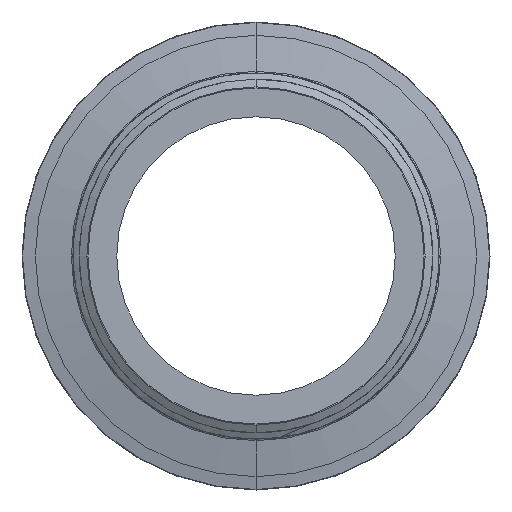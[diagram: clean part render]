
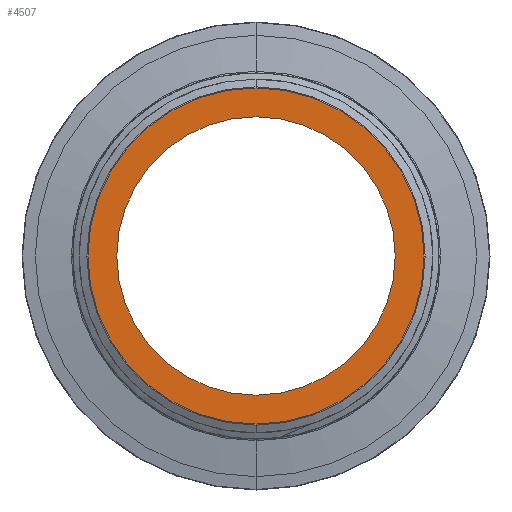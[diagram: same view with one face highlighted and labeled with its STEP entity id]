
A CAD part, front view. The second image highlights one B-rep face of the part: STEP entity #4507.
In plain terms, the highlighted planar face has unit normal (0, -1, 0).
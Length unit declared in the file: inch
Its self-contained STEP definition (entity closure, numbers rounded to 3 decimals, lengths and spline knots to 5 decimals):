
#8 = EDGE_LOOP ( 'NONE', ( #11391, #3389 ) ) ;
#678 = CIRCLE ( 'NONE', #14869, 1.33268 ) ;
#1167 = CARTESIAN_POINT ( 'NONE',  ( 0., 0., 0. ) ) ;
#1326 = DIRECTION ( 'NONE',  ( 1., 0., 0. ) ) ;
#1955 = DIRECTION ( 'NONE',  ( 0., 0., 1. ) ) ;
#2383 = EDGE_CURVE ( 'NONE', #9157, #8151, #678, .T. ) ;
#2394 = AXIS2_PLACEMENT_3D ( 'NONE', #10441, #11557, #1955 ) ;
#3039 = DIRECTION ( 'NONE',  ( 0., 0., 1. ) ) ;
#3112 = CARTESIAN_POINT ( 'NONE',  ( 0., 0., 0. ) ) ;
#3389 = ORIENTED_EDGE ( 'NONE', *, *, #6134, .F. ) ;
#3602 = CIRCLE ( 'NONE', #3840, 1.6089 ) ;
#3833 = CARTESIAN_POINT ( 'NONE',  ( 0., 0., 0. ) ) ;
#3840 = AXIS2_PLACEMENT_3D ( 'NONE', #11377, #9066, #3039 ) ;
#4401 = EDGE_LOOP ( 'NONE', ( #12978, #12003 ) ) ;
#4507 = ADVANCED_FACE ( 'NONE', ( #8822, #5166 ), #14576, .F. ) ;
#4788 = DIRECTION ( 'NONE',  ( 0., 0., 1. ) ) ;
#5166 = FACE_OUTER_BOUND ( 'NONE', #4401, .T. ) ;
#5248 = DIRECTION ( 'NONE',  ( 0., 0., 1. ) ) ;
#6134 = EDGE_CURVE ( 'NONE', #8151, #9157, #9218, .T. ) ;
#6446 = DIRECTION ( 'NONE',  ( 0., -1., 0. ) ) ;
#6935 = DIRECTION ( 'NONE',  ( 0., -1., 0. ) ) ;
#7288 = CARTESIAN_POINT ( 'NONE',  ( 0., 0., 1.33268 ) ) ;
#8151 = VERTEX_POINT ( 'NONE', #13499 ) ;
#8822 = FACE_BOUND ( 'NONE', #8, .T. ) ;
#9066 = DIRECTION ( 'NONE',  ( 0., -1., 0. ) ) ;
#9118 = CIRCLE ( 'NONE', #15238, 1.6089 ) ;
#9157 = VERTEX_POINT ( 'NONE', #7288 ) ;
#9218 = CIRCLE ( 'NONE', #2394, 1.33268 ) ;
#9254 = VERTEX_POINT ( 'NONE', #13561 ) ;
#9719 = AXIS2_PLACEMENT_3D ( 'NONE', #3833, #12322, #1326 ) ;
#10441 = CARTESIAN_POINT ( 'NONE',  ( 0., 0., 0. ) ) ;
#11377 = CARTESIAN_POINT ( 'NONE',  ( 0., 0., 0. ) ) ;
#11391 = ORIENTED_EDGE ( 'NONE', *, *, #2383, .F. ) ;
#11557 = DIRECTION ( 'NONE',  ( 0., -1., 0. ) ) ;
#11591 = EDGE_CURVE ( 'NONE', #9254, #13510, #9118, .T. ) ;
#12003 = ORIENTED_EDGE ( 'NONE', *, *, #11591, .T. ) ;
#12322 = DIRECTION ( 'NONE',  ( 0., 1., 0. ) ) ;
#12978 = ORIENTED_EDGE ( 'NONE', *, *, #14595, .T. ) ;
#13190 = CARTESIAN_POINT ( 'NONE',  ( 0., 0., 1.6089 ) ) ;
#13499 = CARTESIAN_POINT ( 'NONE',  ( 0., 0., -1.33268 ) ) ;
#13510 = VERTEX_POINT ( 'NONE', #13190 ) ;
#13561 = CARTESIAN_POINT ( 'NONE',  ( 0., 0., -1.6089 ) ) ;
#14576 = PLANE ( 'NONE',  #9719 ) ;
#14595 = EDGE_CURVE ( 'NONE', #13510, #9254, #3602, .T. ) ;
#14869 = AXIS2_PLACEMENT_3D ( 'NONE', #3112, #6446, #5248 ) ;
#15238 = AXIS2_PLACEMENT_3D ( 'NONE', #1167, #6935, #4788 ) ;
